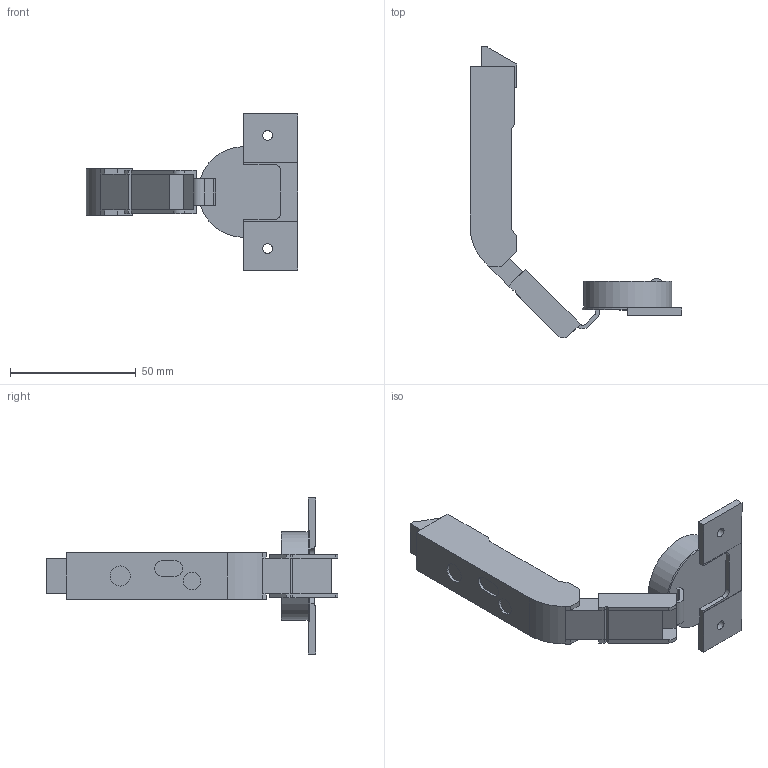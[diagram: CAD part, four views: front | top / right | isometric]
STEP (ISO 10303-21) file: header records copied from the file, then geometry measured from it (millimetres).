
FILE_DESCRIPTION (( 'STEP AP214' ), '1' );
FILE_NAME ('Scharnier T Click-on PCC, geschl-B_BB.step', '2018-10-02T14:36:39', ( '' ), ( '' ), 'SwSTEP 2.0', 'SolidWorks 2017', '' );
FILE_SCHEMA (( 'AUTOMOTIVE_DESIGN' ));
Length unit declared in the file: millimetre
Products named in the file (1): Scharnier T Click-on PCC, geschl-B_BB
Bounding box: 84.05 x 115.9 x 62 mm (x, y, z)
Volume: 44012.1 mm3; surface area: 14355.9 mm2
Topology: 1 solids, 1 shells, 100 faces, 260 edges, 168 vertices
Faces by surface type: plane 76, cylinder 24
Entity records: 3066 total; most frequent: CARTESIAN_POINT 529, ORIENTED_EDGE 520, DIRECTION 510, EDGE_CURVE 260, VECTOR 212, LINE 212, VERTEX_POINT 168, AXIS2_PLACEMENT_3D 149
